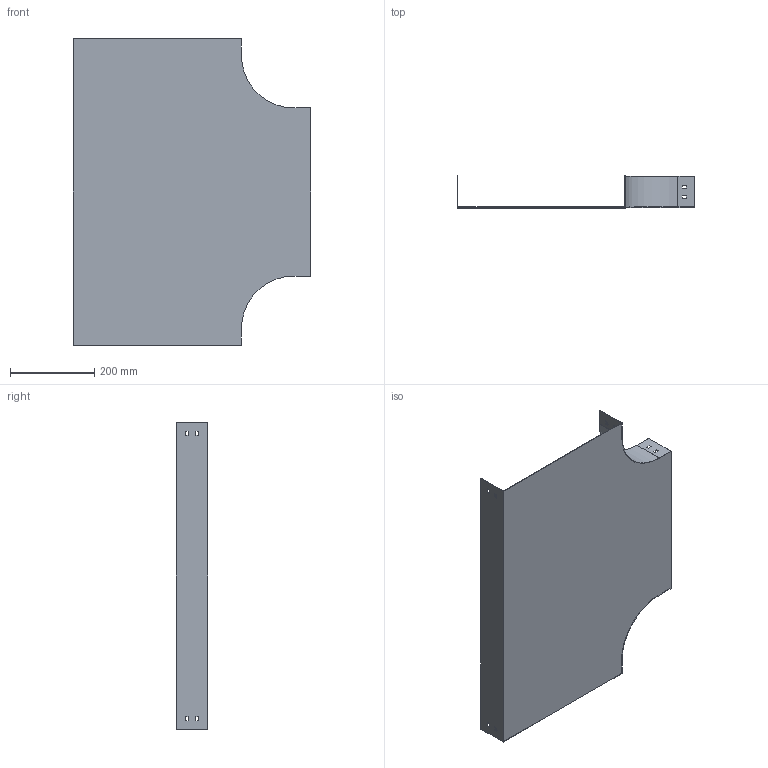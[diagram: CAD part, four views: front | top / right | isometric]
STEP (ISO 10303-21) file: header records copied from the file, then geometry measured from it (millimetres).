
FILE_DESCRIPTION (( 'STEP AP214' ), '1' );
FILE_NAME ('PT_407.step', '2025-07-16T09:24:05', ( '' ), ( '' ), 'SwSTEP 2.0', 'SolidWorks 2023', '' );
FILE_SCHEMA (( 'AUTOMOTIVE_DESIGN' ));
Length unit declared in the file: millimetre
Products named in the file (1): PT_407
Bounding box: 565 x 75 x 730 mm (x, y, z)
Volume: 687476.8 mm3; surface area: 921633.3 mm2
Topology: 1 solids, 1 shells, 70 faces, 204 edges, 136 vertices
Faces by surface type: plane 66, cylinder 4
Entity records: 2347 total; most frequent: CARTESIAN_POINT 411, ORIENTED_EDGE 408, DIRECTION 354, EDGE_CURVE 204, LINE 196, VECTOR 196, VERTEX_POINT 136, EDGE_LOOP 94
